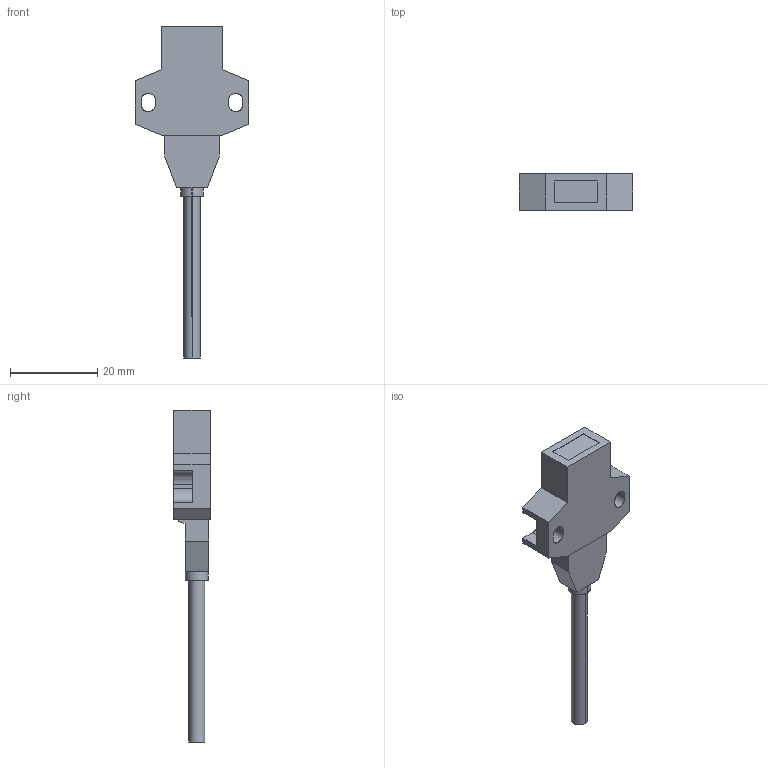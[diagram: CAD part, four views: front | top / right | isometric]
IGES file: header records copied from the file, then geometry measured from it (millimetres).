
Start section: SolidWorks IGES FILE using analytic representation for surfaces
Global section: file name: \\intra-srv04\開発データ\CAD_Data\CAD委員会\3D電子ｶﾀﾛｸﾞ\製品カタログ（新）\0_IGES\PM2-LH10-C1.IGS,41HSolidWorks 2004; native system: by SolidWorks Corporation; preprocessor: Version 5.3; author: yk0651; date: 050906.105806; units: millimetre
Bounding box: 26 x 8.4 x 76 mm (x, y, z)
Surface area: 2754.5 mm2 (no closed solid volume)
Topology: 0 solids, 0 shells, 55 faces, 644 edges, 644 vertices
Faces by surface type: bspline 41, revolution 14
